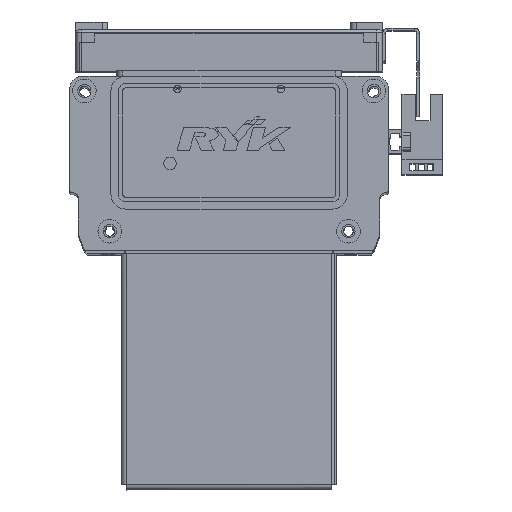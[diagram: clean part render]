
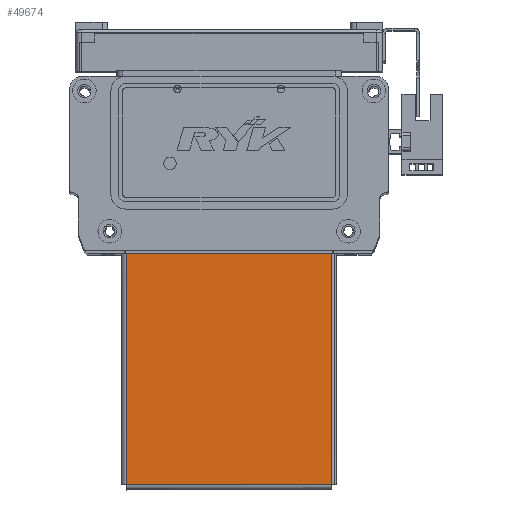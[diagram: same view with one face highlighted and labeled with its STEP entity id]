
A CAD part, top view. The second image highlights one B-rep face of the part: STEP entity #49674.
In plain terms, the highlighted planar face has unit normal (0, 0, 1) as drawn and (0, 1, 0) by its records, which use the part's own axes.
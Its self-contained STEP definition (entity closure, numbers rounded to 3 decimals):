
#125 = CARTESIAN_POINT ( 'NONE',  ( 0., 0., 0. ) ) ;
#132 = DIRECTION ( 'NONE',  ( 0., 0., 1. ) ) ;
#143 = PLANE ( 'NONE',  #9305 ) ;
#159 = DIRECTION ( 'NONE',  ( 0., 1., 0. ) ) ;
#4847 = ORIENTED_EDGE ( 'NONE', *, *, #54429, .T. ) ;
#4865 = ORIENTED_EDGE ( 'NONE', *, *, #54403, .T. ) ;
#4870 = ORIENTED_EDGE ( 'NONE', *, *, #54470, .T. ) ;
#4882 = ORIENTED_EDGE ( 'NONE', *, *, #54662, .T. ) ;
#5729 = CARTESIAN_POINT ( 'NONE',  ( -34.763, 0., -39.5 ) ) ;
#5745 = DIRECTION ( 'NONE',  ( 0., 0., 1. ) ) ;
#6010 = CARTESIAN_POINT ( 'NONE',  ( -34.763, 0., -39.5 ) ) ;
#6051 = CARTESIAN_POINT ( 'NONE',  ( 34.763, 0., 38.763 ) ) ;
#6139 = CARTESIAN_POINT ( 'NONE',  ( -34.763, 0., 38.763 ) ) ;
#6157 = CARTESIAN_POINT ( 'NONE',  ( 34.763, 0., -39.5 ) ) ;
#6302 = DIRECTION ( 'NONE',  ( 1., 0., 0. ) ) ;
#6317 = CARTESIAN_POINT ( 'NONE',  ( -34.793, 0., 38.763 ) ) ;
#6328 = CARTESIAN_POINT ( 'NONE',  ( 34.763, 0., 38.793 ) ) ;
#6345 = DIRECTION ( 'NONE',  ( 0., 0., -1. ) ) ;
#6432 = DIRECTION ( 'NONE',  ( -1., 0., 0. ) ) ;
#6449 = CARTESIAN_POINT ( 'NONE',  ( -35.5, 0., -39.5 ) ) ;
#9305 = AXIS2_PLACEMENT_3D ( 'NONE', #125, #159, #132 ) ;
#11168 = EDGE_LOOP ( 'NONE', ( #4882, #4865, #4847, #4870 ) ) ;
#22860 = FACE_OUTER_BOUND ( 'NONE', #11168, .T. ) ;
#49674 = ADVANCED_FACE ( 'NONE', ( #22860 ), #143, .T. ) ;
#51847 = VECTOR ( 'NONE', #6302, 1000. ) ;
#51863 = VECTOR ( 'NONE', #6345, 1000. ) ;
#51872 = VECTOR ( 'NONE', #6432, 1000. ) ;
#51874 = LINE ( 'NONE', #6328, #51863 ) ;
#51888 = LINE ( 'NONE', #6449, #51872 ) ;
#51893 = LINE ( 'NONE', #6317, #51847 ) ;
#52056 = VECTOR ( 'NONE', #5745, 1000. ) ;
#52078 = LINE ( 'NONE', #5729, #52056 ) ;
#54233 = VERTEX_POINT ( 'NONE', #6010 ) ;
#54241 = VERTEX_POINT ( 'NONE', #6051 ) ;
#54286 = VERTEX_POINT ( 'NONE', #6139 ) ;
#54318 = VERTEX_POINT ( 'NONE', #6157 ) ;
#54403 = EDGE_CURVE ( 'NONE', #54286, #54241, #51893, .T. ) ;
#54429 = EDGE_CURVE ( 'NONE', #54241, #54318, #51874, .T. ) ;
#54470 = EDGE_CURVE ( 'NONE', #54318, #54233, #51888, .T. ) ;
#54662 = EDGE_CURVE ( 'NONE', #54233, #54286, #52078, .T. ) ;
